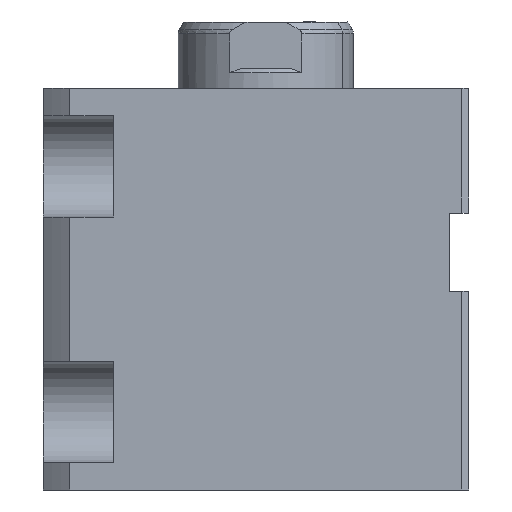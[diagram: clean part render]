
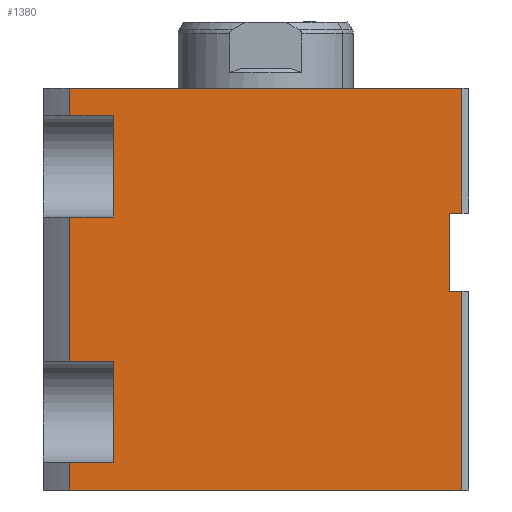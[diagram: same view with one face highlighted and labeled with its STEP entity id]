
A CAD part, left-side view. The second image highlights one B-rep face of the part: STEP entity #1380.
In plain terms, the highlighted planar face has unit normal (-1, 0, 0).
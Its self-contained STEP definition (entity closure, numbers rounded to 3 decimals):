
#249=CARTESIAN_POINT('Line Origine',(-71.,-50.279,51.5)) ;
#253=CARTESIAN_POINT('Vertex',(-71.,-50.279,51.)) ;
#255=CARTESIAN_POINT('Vertex',(-71.,-50.279,0.)) ;
#410=CARTESIAN_POINT('Vertex',(-71.,-50.279,71.)) ;
#415=CARTESIAN_POINT('Line Origine',(-71.,-48.69,71.)) ;
#419=CARTESIAN_POINT('Vertex',(-71.,-47.1,71.)) ;
#793=CARTESIAN_POINT('Vertex',(-71.,-50.279,103.)) ;
#796=CARTESIAN_POINT('Line Origine',(-71.,-50.279,51.5)) ;
#848=CARTESIAN_POINT('Line Origine',(-71.,-47.1,61.)) ;
#852=CARTESIAN_POINT('Vertex',(-71.,-47.1,51.)) ;
#945=CARTESIAN_POINT('Line Origine',(-71.,-48.69,51.)) ;
#1056=CARTESIAN_POINT('Vertex',(-71.,50.279,0.)) ;
#1064=CARTESIAN_POINT('Line Origine',(-71.,0.,0.)) ;
#1230=CARTESIAN_POINT('Vertex',(-71.,50.279,103.)) ;
#1233=CARTESIAN_POINT('Line Origine',(-71.,0.,103.)) ;
#1296=CARTESIAN_POINT('Axis2P3D Location',(-71.,57.,103.)) ;
#1301=CARTESIAN_POINT('Line Origine',(-71.,44.64,33.)) ;
#1305=CARTESIAN_POINT('Vertex',(-71.,50.279,33.)) ;
#1307=CARTESIAN_POINT('Vertex',(-71.,39.,33.)) ;
#1310=CARTESIAN_POINT('Line Origine',(-71.,39.,20.)) ;
#1314=CARTESIAN_POINT('Vertex',(-71.,39.,7.)) ;
#1317=CARTESIAN_POINT('Line Origine',(-71.,44.64,7.)) ;
#1321=CARTESIAN_POINT('Vertex',(-71.,50.279,7.)) ;
#1324=CARTESIAN_POINT('Line Origine',(-71.,50.279,3.5)) ;
#1329=CARTESIAN_POINT('Line Origine',(-71.,50.279,99.5)) ;
#1333=CARTESIAN_POINT('Vertex',(-71.,50.279,96.)) ;
#1336=CARTESIAN_POINT('Line Origine',(-71.,44.64,96.)) ;
#1340=CARTESIAN_POINT('Vertex',(-71.,39.,96.)) ;
#1343=CARTESIAN_POINT('Line Origine',(-71.,39.,83.)) ;
#1347=CARTESIAN_POINT('Vertex',(-71.,39.,70.)) ;
#1350=CARTESIAN_POINT('Line Origine',(-71.,44.64,70.)) ;
#1354=CARTESIAN_POINT('Vertex',(-71.,50.279,70.)) ;
#1357=CARTESIAN_POINT('Line Origine',(-71.,50.279,51.5)) ;
#250=DIRECTION('Vector Direction',(0.,0.,1.)) ;
#416=DIRECTION('Vector Direction',(0.,1.,0.)) ;
#797=DIRECTION('Vector Direction',(0.,0.,1.)) ;
#849=DIRECTION('Vector Direction',(0.,0.,-1.)) ;
#946=DIRECTION('Vector Direction',(0.,1.,0.)) ;
#1065=DIRECTION('Vector Direction',(0.,-1.,0.)) ;
#1234=DIRECTION('Vector Direction',(0.,-1.,0.)) ;
#1297=DIRECTION('Axis2P3D Direction',(1.,0.,0.)) ;
#1298=DIRECTION('Axis2P3D XDirection',(0.,-1.,0.)) ;
#1302=DIRECTION('Vector Direction',(0.,-1.,0.)) ;
#1311=DIRECTION('Vector Direction',(0.,0.,-1.)) ;
#1318=DIRECTION('Vector Direction',(0.,-1.,0.)) ;
#1325=DIRECTION('Vector Direction',(0.,0.,-1.)) ;
#1330=DIRECTION('Vector Direction',(0.,0.,-1.)) ;
#1337=DIRECTION('Vector Direction',(0.,-1.,0.)) ;
#1344=DIRECTION('Vector Direction',(0.,0.,-1.)) ;
#1351=DIRECTION('Vector Direction',(0.,-1.,0.)) ;
#1358=DIRECTION('Vector Direction',(0.,0.,-1.)) ;
#1299=AXIS2_PLACEMENT_3D('Plane Axis2P3D',#1296,#1297,#1298) ;
#1363=ORIENTED_EDGE('',*,*,#1309,.T.) ;
#1364=ORIENTED_EDGE('',*,*,#1316,.T.) ;
#1365=ORIENTED_EDGE('',*,*,#1323,.F.) ;
#1366=ORIENTED_EDGE('',*,*,#1328,.T.) ;
#1367=ORIENTED_EDGE('',*,*,#1068,.T.) ;
#1368=ORIENTED_EDGE('',*,*,#257,.F.) ;
#1369=ORIENTED_EDGE('',*,*,#949,.T.) ;
#1370=ORIENTED_EDGE('',*,*,#854,.F.) ;
#1371=ORIENTED_EDGE('',*,*,#421,.F.) ;
#1372=ORIENTED_EDGE('',*,*,#800,.F.) ;
#1373=ORIENTED_EDGE('',*,*,#1237,.F.) ;
#1374=ORIENTED_EDGE('',*,*,#1335,.T.) ;
#1375=ORIENTED_EDGE('',*,*,#1342,.T.) ;
#1376=ORIENTED_EDGE('',*,*,#1349,.T.) ;
#1377=ORIENTED_EDGE('',*,*,#1356,.F.) ;
#1378=ORIENTED_EDGE('',*,*,#1361,.T.) ;
#251=VECTOR('Line Direction',#250,1.) ;
#417=VECTOR('Line Direction',#416,1.) ;
#798=VECTOR('Line Direction',#797,1.) ;
#850=VECTOR('Line Direction',#849,1.) ;
#947=VECTOR('Line Direction',#946,1.) ;
#1066=VECTOR('Line Direction',#1065,1.) ;
#1235=VECTOR('Line Direction',#1234,1.) ;
#1303=VECTOR('Line Direction',#1302,1.) ;
#1312=VECTOR('Line Direction',#1311,1.) ;
#1319=VECTOR('Line Direction',#1318,1.) ;
#1326=VECTOR('Line Direction',#1325,1.) ;
#1331=VECTOR('Line Direction',#1330,1.) ;
#1338=VECTOR('Line Direction',#1337,1.) ;
#1345=VECTOR('Line Direction',#1344,1.) ;
#1352=VECTOR('Line Direction',#1351,1.) ;
#1359=VECTOR('Line Direction',#1358,1.) ;
#1380=ADVANCED_FACE('PartBody',(#1379),#1300,.F.) ;
#257=EDGE_CURVE('',#254,#256,#252,.F.) ;
#421=EDGE_CURVE('',#411,#420,#418,.T.) ;
#800=EDGE_CURVE('',#794,#411,#799,.F.) ;
#854=EDGE_CURVE('',#420,#853,#851,.T.) ;
#949=EDGE_CURVE('',#254,#853,#948,.T.) ;
#1068=EDGE_CURVE('',#1057,#256,#1067,.T.) ;
#1237=EDGE_CURVE('',#1231,#794,#1236,.T.) ;
#1309=EDGE_CURVE('',#1306,#1308,#1304,.T.) ;
#1316=EDGE_CURVE('',#1308,#1315,#1313,.T.) ;
#1323=EDGE_CURVE('',#1322,#1315,#1320,.T.) ;
#1328=EDGE_CURVE('',#1322,#1057,#1327,.T.) ;
#1335=EDGE_CURVE('',#1231,#1334,#1332,.T.) ;
#1342=EDGE_CURVE('',#1334,#1341,#1339,.T.) ;
#1349=EDGE_CURVE('',#1341,#1348,#1346,.T.) ;
#1356=EDGE_CURVE('',#1355,#1348,#1353,.T.) ;
#1361=EDGE_CURVE('',#1355,#1306,#1360,.T.) ;
#1362=EDGE_LOOP('',(#1363,#1364,#1365,#1366,#1367,#1368,#1369,#1370,#1371,#1372,#1373,#1374,#1375,#1376,#1377,#1378)) ;
#1379=FACE_OUTER_BOUND('',#1362,.T.) ;
#252=LINE('Line',#249,#251) ;
#418=LINE('Line',#415,#417) ;
#799=LINE('Line',#796,#798) ;
#851=LINE('Line',#848,#850) ;
#948=LINE('Line',#945,#947) ;
#1067=LINE('Line',#1064,#1066) ;
#1236=LINE('Line',#1233,#1235) ;
#1304=LINE('Line',#1301,#1303) ;
#1313=LINE('Line',#1310,#1312) ;
#1320=LINE('Line',#1317,#1319) ;
#1327=LINE('Line',#1324,#1326) ;
#1332=LINE('Line',#1329,#1331) ;
#1339=LINE('Line',#1336,#1338) ;
#1346=LINE('Line',#1343,#1345) ;
#1353=LINE('Line',#1350,#1352) ;
#1360=LINE('Line',#1357,#1359) ;
#1300=PLANE('Plane',#1299) ;
#254=VERTEX_POINT('',#253) ;
#256=VERTEX_POINT('',#255) ;
#411=VERTEX_POINT('',#410) ;
#420=VERTEX_POINT('',#419) ;
#794=VERTEX_POINT('',#793) ;
#853=VERTEX_POINT('',#852) ;
#1057=VERTEX_POINT('',#1056) ;
#1231=VERTEX_POINT('',#1230) ;
#1306=VERTEX_POINT('',#1305) ;
#1308=VERTEX_POINT('',#1307) ;
#1315=VERTEX_POINT('',#1314) ;
#1322=VERTEX_POINT('',#1321) ;
#1334=VERTEX_POINT('',#1333) ;
#1341=VERTEX_POINT('',#1340) ;
#1348=VERTEX_POINT('',#1347) ;
#1355=VERTEX_POINT('',#1354) ;
